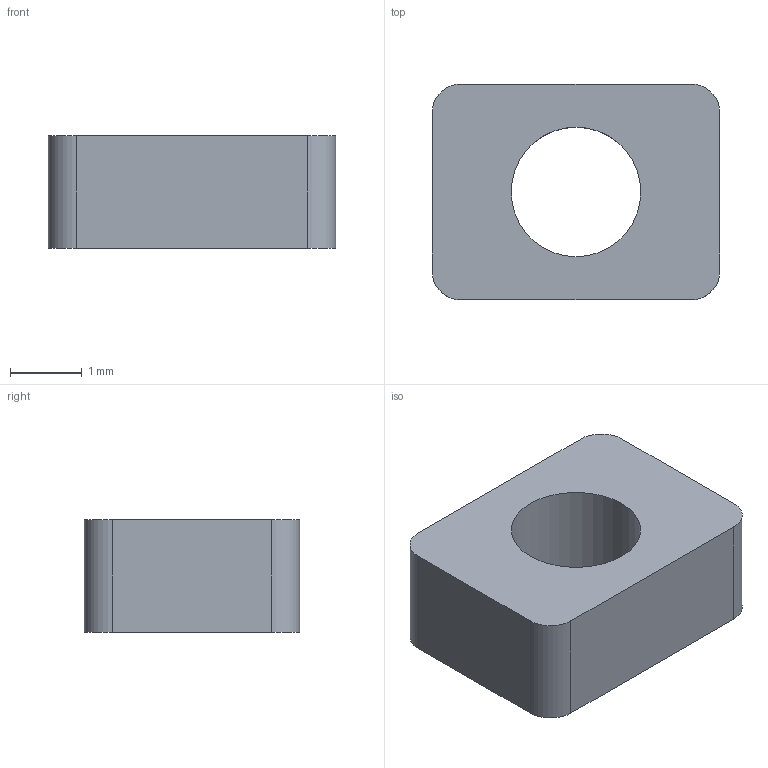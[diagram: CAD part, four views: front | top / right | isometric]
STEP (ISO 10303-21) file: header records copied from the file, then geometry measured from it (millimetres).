
FILE_DESCRIPTION(('Open CASCADE Model'),'2;1');
FILE_NAME('Open CASCADE Shape Model','2026-09-04T21:47:03',('Author'),( 'Open CASCADE'),'Open CASCADE STEP processor 7.7','Open CASCADE 7.7' ,'Unknown');
FILE_SCHEMA(('AUTOMOTIVE_DESIGN { 1 0 10303 214 1 1 1 1 }'));
Length unit declared in the file: millimetre
Products named in the file (1): Open CASCADE STEP translator 7.7 4
Bounding box: 4 x 3 x 1.57 mm (x, y, z)
Volume: 14.6 mm3; surface area: 48.4 mm2
Topology: 1 solids, 1 shells, 11 faces, 27 edges, 18 vertices
Faces by surface type: plane 6, cylinder 5
Full cylindrical faces by diameter (mm): 1.8 x1
Entity records: 714 total; most frequent: CARTESIAN_POINT 147, DIRECTION 109, LINE 61, VECTOR 61, ORIENTED_EDGE 54, PCURVE 54, DEFINITIONAL_REPRESENTATION 54, EDGE_CURVE 27
